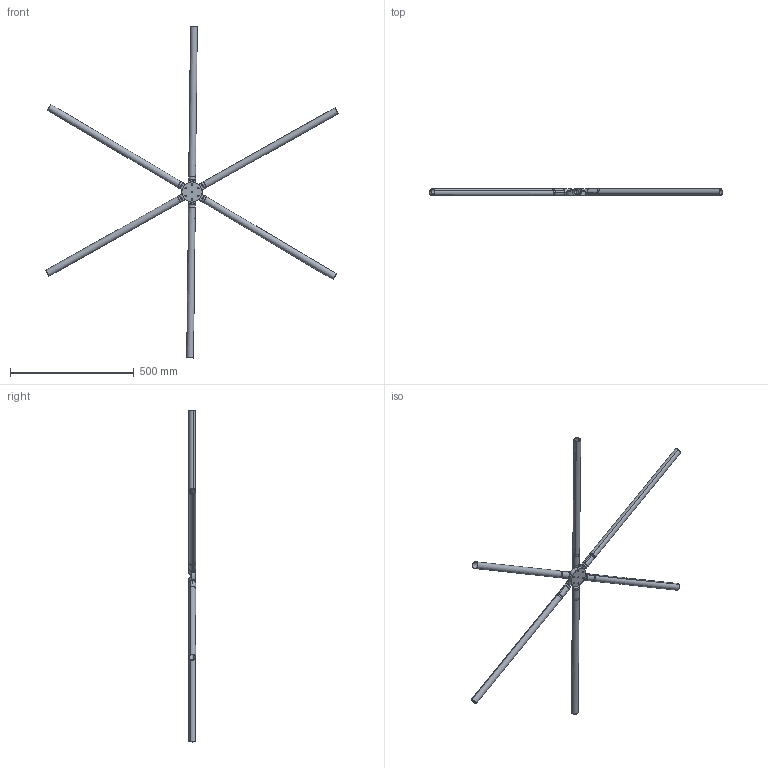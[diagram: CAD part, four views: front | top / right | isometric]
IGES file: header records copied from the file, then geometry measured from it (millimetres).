
Start section: SolidWorks IGES file using analytic representation for surfaces
Global section: file name: \\SERVER3\Design\_NEWDE~1\_DESIG~1\AAI\MODULA~1\SOLIDW~1\DEMONS~1\25DBF2~1.ASS\MODULA~1\769F8~1.RAD\RADIAL~2\Wheel Connector with Six Single Sided Clevis Connectors Connection.IGS; native system: SolidWorks 2013; preprocessor: SolidWorks 2013; author: tbraun; date: 130819.121514; units: inch
Bounding box: 1182.16 x 30.45 x 1340.9 mm (x, y, z)
Surface area: 697835.1 mm2 (no closed solid volume)
Topology: 0 solids, 0 shells, 1348 faces, 19046 edges, 19034 vertices
Faces by surface type: revolution 1196, bspline 152
